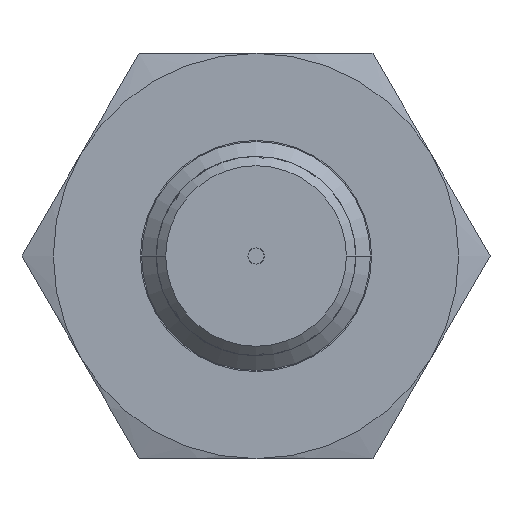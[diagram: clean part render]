
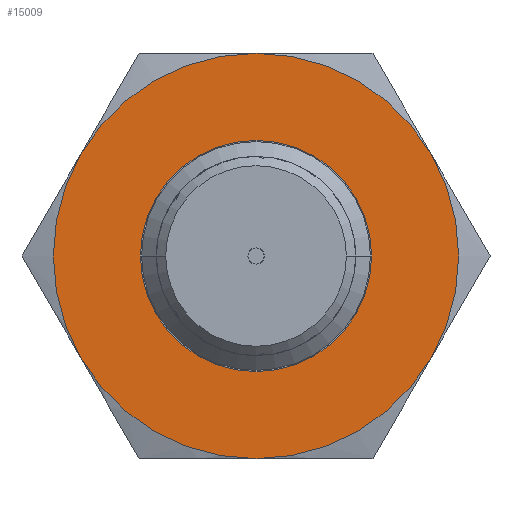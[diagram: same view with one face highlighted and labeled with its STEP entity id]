
A CAD part, left-side view. The second image highlights one B-rep face of the part: STEP entity #15009.
In plain terms, the highlighted free-form (B-spline) face has degree [1, 1] with [2, 2] control points.
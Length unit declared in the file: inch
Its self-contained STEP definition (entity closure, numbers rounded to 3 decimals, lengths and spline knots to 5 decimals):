
#1388=CARTESIAN_POINT('',(-0.2475,0.0,-0.4375));
#1389=VERTEX_POINT('',#1388);
#1423=CARTESIAN_POINT('',(-0.2475,0.,0.4375));
#1424=VERTEX_POINT('',#1423);
#1431=CARTESIAN_POINT('',(-0.2475,0.0,0.0));
#1432=DIRECTION('',(-1.0,0.0,0.0));
#1433=DIRECTION('',(0.0,0.0,-1.0));
#1434=AXIS2_PLACEMENT_3D('',#1431,#1432,#1433);
#1435=CIRCLE('',#1434,0.4375);
#1436=EDGE_CURVE('',#1389,#1424,#1435,.T.);
#2017=CARTESIAN_POINT('',(-0.2475,0.2495,0.0));
#2018=VERTEX_POINT('',#2017);
#2027=CARTESIAN_POINT('',(-0.2475,-0.2495,0.));
#2028=VERTEX_POINT('',#2027);
#2029=CARTESIAN_POINT('',(-0.2475,0.0,0.0));
#2030=DIRECTION('',(-1.0,0.0,0.0));
#2031=DIRECTION('',(0.0,1.0,0.0));
#2032=AXIS2_PLACEMENT_3D('',#2029,#2030,#2031);
#2033=CIRCLE('',#2032,0.2495);
#2034=EDGE_CURVE('',#2018,#2028,#2033,.T.);
#13640=CARTESIAN_POINT('',(-0.2475,0.0,0.0));
#13641=DIRECTION('',(-1.0,0.0,0.0));
#13642=DIRECTION('',(0.0,1.0,0.0));
#13643=AXIS2_PLACEMENT_3D('',#13640,#13641,#13642);
#13644=CIRCLE('',#13643,0.2495);
#13645=EDGE_CURVE('',#2028,#2018,#13644,.T.);
#14982=CARTESIAN_POINT('',(-0.2475,0.0,0.0));
#14983=DIRECTION('',(-1.0,0.0,0.0));
#14984=DIRECTION('',(0.0,0.0,-1.0));
#14985=AXIS2_PLACEMENT_3D('',#14982,#14983,#14984);
#14986=CIRCLE('',#14985,0.4375);
#14987=EDGE_CURVE('',#1424,#1389,#14986,.T.);
#14996=CARTESIAN_POINT('',(-0.2475,0.4375,0.4375));
#14997=CARTESIAN_POINT('',(-0.2475,0.4375,-0.4375));
#14998=CARTESIAN_POINT('',(-0.2475,-0.4375,0.4375));
#14999=CARTESIAN_POINT('',(-0.2475,-0.4375,-0.4375));
#15000=B_SPLINE_SURFACE_WITH_KNOTS('',1,1,((#14996,#14998),(#14997,#14999)),.UNSPECIFIED.,.F.,.F.,.U.,(2,2),(2,2),(0.0,0.875),(0.0,0.875),.UNSPECIFIED.);
#15001=ORIENTED_EDGE('',*,*,#1436,.T.);
#15002=ORIENTED_EDGE('',*,*,#14987,.T.);
#15003=EDGE_LOOP('',(#15001,#15002));
#15004=FACE_OUTER_BOUND('',#15003,.T.);
#15005=ORIENTED_EDGE('',*,*,#2034,.F.);
#15006=ORIENTED_EDGE('',*,*,#13645,.F.);
#15007=EDGE_LOOP('',(#15005,#15006));
#15008=FACE_BOUND('',#15007,.T.);
#15009=ADVANCED_FACE('',(#15004,#15008),#15000,.T.);
